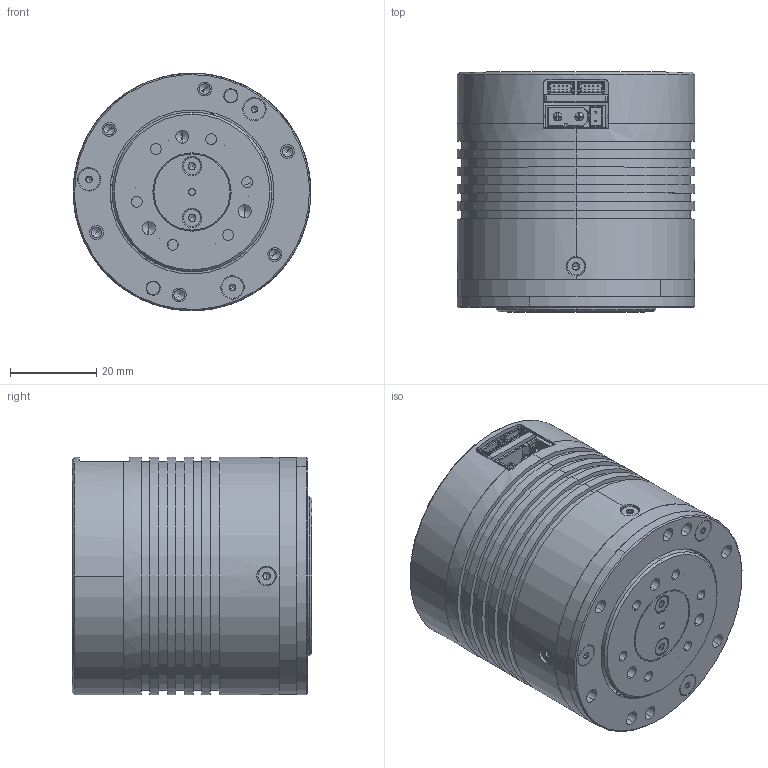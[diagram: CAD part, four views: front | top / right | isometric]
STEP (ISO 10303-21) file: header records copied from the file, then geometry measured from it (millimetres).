
FILE_DESCRIPTION (( 'STEP AP203' ), '1' );
FILE_NAME ('RMD-X4-P12-10 外形图.STEP', '2026-09-20T07:00:43', ( '微软用户' ), ( '微软中国' ), 'SwSTEP 2.0', 'SolidWorks 2020', '' );
FILE_SCHEMA (( 'CONFIG_CONTROL_DESIGN' ));
Length unit declared in the file: millimetre
Products named in the file (14): D4xD10x0.3  _Default________.STEP; MT-X4P12.5-0003-V1_Default________.STEP; D4h6_Default________.STEP; X4 V1.1_狟啣 2026-09-18; M2X4.STEP; MT-X4P12.5-0014-V1_Default________.STEP; M2.5X6.STEP; MT-X4P12.5-0015-V1_Default________.STEP; M2X12.STEP; MT-X4P12.5-0018-V1_Default________.STEP; RMD-X4-P12-10 俋倛芞; 8MT.013.030.STEP; X4 V1.1_奻啣 2026-09-18; XMT.105.027.STEP
Assembly tree (21 placements, depth 2):
  RMD-X4-P12-10 俋倛芞
    MT-X4P12.5-0003-V1_Default________.STEP
    MT-X4P12.5-0014-V1_Default________.STEP
    MT-X4P12.5-0015-V1_Default________.STEP
    D4h6_Default________.STEP
    D4xD10x0.3  _Default________.STEP
    MT-X4P12.5-0018-V1_Default________.STEP
    XMT.105.027.STEP
    M2X4.STEP  x6
    M2.5X6.STEP  x3
    M2X12.STEP  x2
    8MT.013.030.STEP
    X4 V1.1_奻啣 2026-09-18
    X4 V1.1_狟啣 2026-09-18
Bounding box: 55 x 55.5 x 55 mm (x, y, z)
Volume: 35821.5 mm3; surface area: 47996.9 mm2
Topology: 54 solids, 54 shells, 3020 faces, 8011 edges, 5169 vertices
Faces by surface type: cylinder 1260, plane 1174, bspline 344, cone 230, sphere 8, torus 4
Entity records: 94926 total; most frequent: CARTESIAN_POINT 21333, ORIENTED_EDGE 15070, DIRECTION 14229, EDGE_CURVE 7535, AXIS2_PLACEMENT_3D 5042, VERTEX_POINT 4941, VECTOR 4145, LINE 4145
